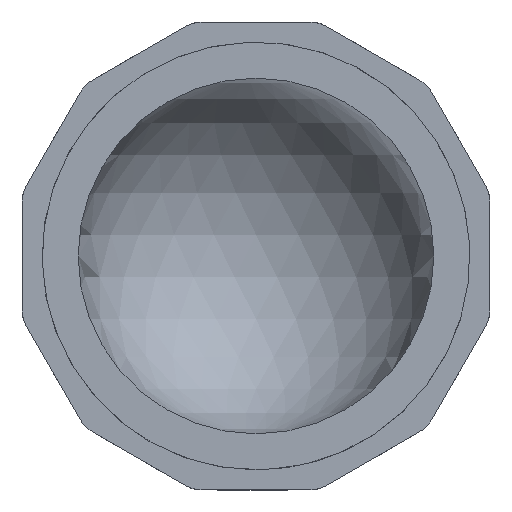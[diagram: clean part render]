
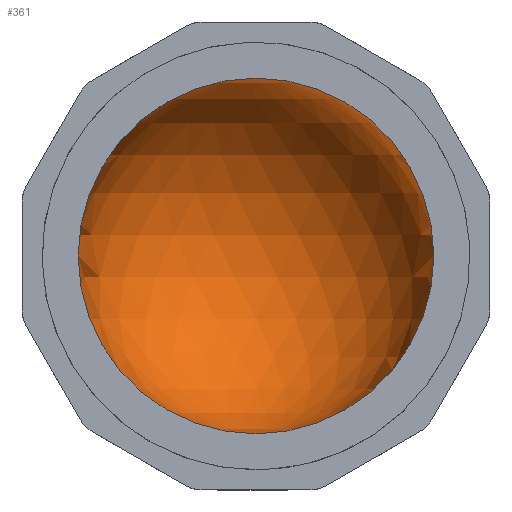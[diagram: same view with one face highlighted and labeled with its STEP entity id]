
A CAD part, front view. The second image highlights one B-rep face of the part: STEP entity #361.
In plain terms, the highlighted spherical face has radius 13.3 mm.
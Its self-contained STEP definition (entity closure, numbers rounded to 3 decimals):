
#139 = CARTESIAN_POINT ( 'NONE',  ( 0., 22.75, 0. ) ) ;
#307 = DIRECTION ( 'NONE',  ( 0., 1., 0. ) ) ;
#331 = EDGE_CURVE ( 'NONE', #379, #379, #424, .T. ) ;
#361 = ADVANCED_FACE ( 'NONE', ( #460 ), #1010, .F. ) ;
#379 = VERTEX_POINT ( 'NONE', #698 ) ;
#424 = CIRCLE ( 'NONE', #1174, 13.3 ) ;
#455 = DIRECTION ( 'NONE',  ( -1., 0., 0. ) ) ;
#460 = FACE_OUTER_BOUND ( 'NONE', #1230, .T. ) ;
#698 = CARTESIAN_POINT ( 'NONE',  ( -13.3, 22.75, 0. ) ) ;
#837 = DIRECTION ( 'NONE',  ( -1., 0., 0. ) ) ;
#941 = AXIS2_PLACEMENT_3D ( 'NONE', #139, #1121, #455 ) ;
#1010 = SPHERICAL_SURFACE ( 'NONE', #941, 13.3 ) ;
#1060 = CARTESIAN_POINT ( 'NONE',  ( 0., 22.75, 0. ) ) ;
#1073 = ORIENTED_EDGE ( 'NONE', *, *, #331, .F. ) ;
#1121 = DIRECTION ( 'NONE',  ( 0., 0., 1. ) ) ;
#1174 = AXIS2_PLACEMENT_3D ( 'NONE', #1060, #307, #837 ) ;
#1230 = EDGE_LOOP ( 'NONE', ( #1073 ) ) ;
